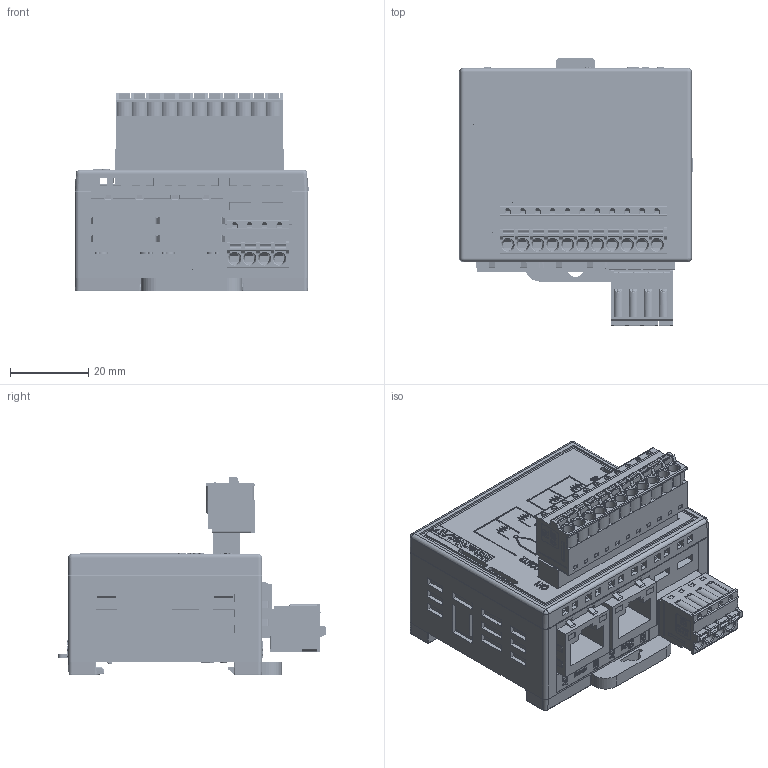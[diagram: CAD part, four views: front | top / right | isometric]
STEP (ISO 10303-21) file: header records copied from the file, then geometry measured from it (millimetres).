
FILE_DESCRIPTION((''),'2;1');
FILE_NAME('EICBT40-W','2026-05-27T14:16:50',('gijyu181'),(''),'CREO PARAMETRIC BY PTC INC, 2018050','CREO PARAMETRIC BY PTC INC, 2018050','');
FILE_SCHEMA(('CONFIG_CONTROL_DESIGN','SHAPE_APPEARANCE_LAYERS_GROUPS'));
Products named in the file (1): EICBT40-W
Bounding box: 59.75 x 68.55 x 50.7 mm (x, y, z)
Volume: 71522.5 mm3; surface area: 45663.9 mm2
Topology: 1 solids, 40 shells, 9253 faces, 25928 edges, 17098 vertices
Faces by surface type: plane 6559, cylinder 1224, extrusion 1132, cone 184, sphere 74, torus 56, bspline 24
Entity records: 391560 total; most frequent: CARTESIAN_POINT 72840, ORIENTED_EDGE 51155, DIRECTION 42485, EDGE_CURVE 25914, VECTOR 21361, LINE 20229, PRESENTATION_STYLE_ASSIGNMENT 17629, VERTEX_POINT 17098
